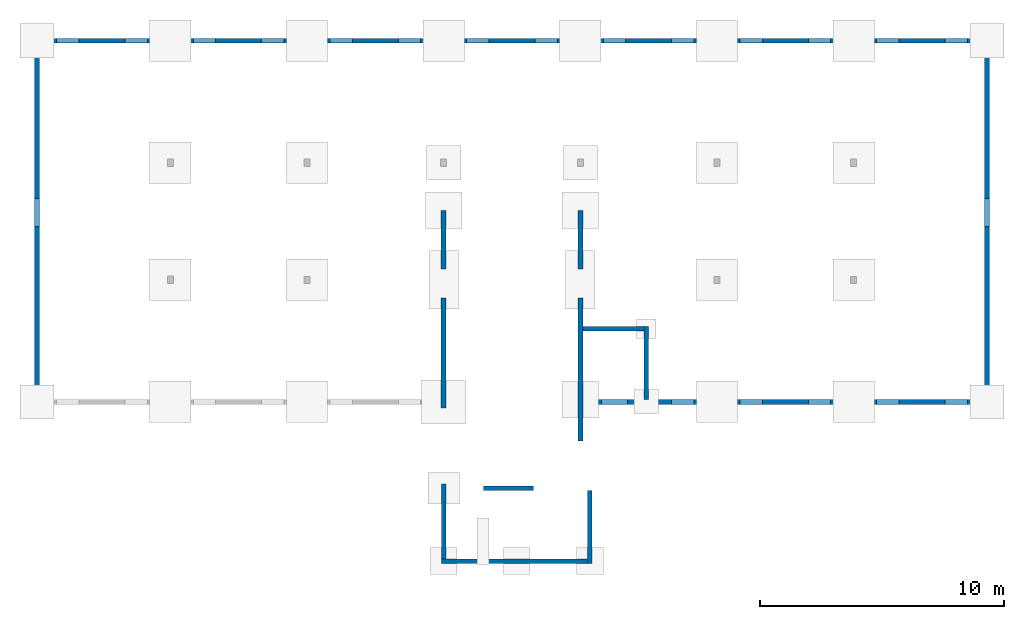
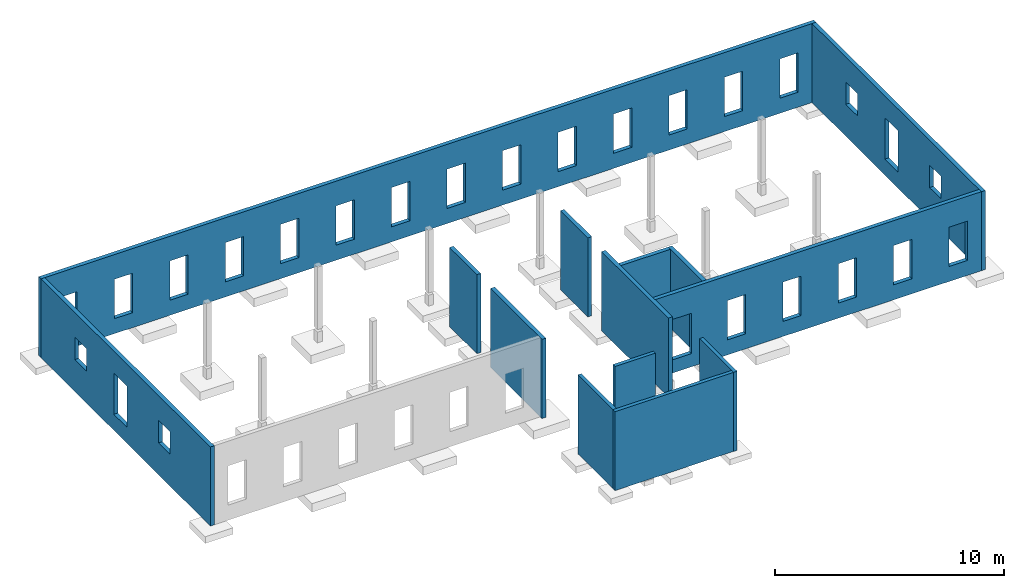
# One storey, part 2 of 2: 14 walls, 26 openings.
"""IFC2X3 building model written with IfcOpenShell, lengths in metres."""

from ifc_helpers import new_model, entity, si_unit, converted_unit, derived_unit, direction, frame, frame_2d, origin, origin_2d_with_axis, place, context, subcontext, project, spatial, rectangle, extrude, material, layer, layer_set, layer_usage, type_object, element, save


model = new_model("IFC2X3")

# Units and contexts
model_context = context("Model", 3, precision=1e-05, world=origin(), true_north=direction((6.12303176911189e-17, 1.0)))
context_of_model = context(None, 3, precision=1e-05, world=origin(), true_north=direction((6.12303176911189e-17, 1.0)))
body_context = subcontext(model_context, "Body", "Model", "MODEL_VIEW")
ifc_project = project(units=[si_unit("LENGTHUNIT", "METRE"), si_unit("AREAUNIT", "SQUARE_METRE"), si_unit("VOLUMEUNIT", "CUBIC_METRE"), converted_unit("PLANEANGLEUNIT", "DEGREE", entity("IfcRatioMeasure", 0.0174532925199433), si_unit("PLANEANGLEUNIT", "RADIAN"), dimensions=[0, 0, 0, 0, 0, 0, 0]), si_unit("MASSUNIT", "GRAM", prefix="KILO"), si_unit("TIMEUNIT", "SECOND"), si_unit("FREQUENCYUNIT", "HERTZ"), si_unit("THERMODYNAMICTEMPERATUREUNIT", "DEGREE_CELSIUS"), derived_unit("THERMALTRANSMITTANCEUNIT", [(si_unit("MASSUNIT", "GRAM", prefix="KILO"), 1), (si_unit("THERMODYNAMICTEMPERATUREUNIT", "KELVIN"), -1), (si_unit("TIMEUNIT", "SECOND"), -3)]), derived_unit("VOLUMETRICFLOWRATEUNIT", [(si_unit("LENGTHUNIT", "METRE"), 3), (si_unit("TIMEUNIT", "SECOND"), -1)]), si_unit("ELECTRICCURRENTUNIT", "AMPERE"), si_unit("ELECTRICVOLTAGEUNIT", "VOLT"), si_unit("POWERUNIT", "WATT"), si_unit("FORCEUNIT", "NEWTON"), si_unit("ILLUMINANCEUNIT", "LUX"), si_unit("LUMINOUSFLUXUNIT", "LUMEN"), si_unit("LUMINOUSINTENSITYUNIT", "CANDELA"), si_unit("PRESSUREUNIT", "PASCAL")], contexts=[model_context, context_of_model])

# Site, building, storey
site_placement = place(None, origin())
site = spatial("IfcSite", under=ifc_project, at=site_placement, Name="Default", CompositionType="ELEMENT")
building_placement = place(site_placement, origin())
building = spatial("IfcBuilding", under=site, at=building_placement, Name="BATIMENT 1", CompositionType="ELEMENT")
storey_placement = place(building_placement, frame((0.0, 0.0, -0.7)))
storey = spatial("IfcBuildingStorey", under=building, at=storey_placement, Name="Fondations", CompositionType="ELEMENT", Elevation=-0.7)

# Wall, openings
ifc_material = material(Name="AEC Béton, C25/30")
ifc_layer_1 = layer(ifc_material, 0.2)
ifc_layer_set_1 = layer_set([ifc_layer_1], Name="Mur de base:BG VOILE BA 0.20 C25/30")
ifc_layer_usage_1 = layer_usage(ifc_layer_set_1, "AXIS2", "NEGATIVE", 0.1)
wall_type_1 = type_object("IfcWallType", Name="Mur de base:BG VOILE BA 0.20 C25/30", PredefinedType="STANDARD", material=ifc_layer_set_1)
wall_1_placement = place(storey_placement, frame((-19.7636530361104, 8.482537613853, 0.0)))
wall_1 = element("IfcWallStandardCase", 1, at=wall_1_placement, inside=storey, type_object=wall_type_1, material=ifc_layer_usage_1, Name="Mur de base:BG VOILE BA 0.20 C25/30", ObjectType="Mur de base:BG VOILE BA 0.20 C25/30", context=body_context, shape_type="SweptSolid", body=[
    extrude(rectangle(XDim=39.12, YDim=0.2, at=frame_2d((19.56, 3.19189119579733e-16), x_axis=(-1.0, 0.0))), origin(), (0.0, 0.0, 1.0), 4.22),
])
opening_1_placement = place(wall_1_placement, origin())
element("IfcOpeningElement", 2, at=opening_1_placement, cuts=wall_1, Name="Mur de base:BG VOILE BA 0.20 C25/30", ObjectType="Opening", context=body_context, shape_type="SweptSolid", body=[
    extrude(rectangle(XDim=2.1, YDim=0.919999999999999, at=origin_2d_with_axis()), frame((1.36, -0.1, 1.85), z_axis=(0.0, 1.0, 0.0), x_axis=(0.0, 0.0, -1.0)), (0.0, 0.0, 1.0), 0.2),
])
opening_2_placement = place(wall_1_placement, origin())
element("IfcOpeningElement", 3, at=opening_2_placement, cuts=wall_1, Name="Mur de base:BG VOILE BA 0.20 C25/30", ObjectType="Opening", context=body_context, shape_type="SweptSolid", body=[
    extrude(rectangle(XDim=2.1, YDim=0.919999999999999, at=origin_2d_with_axis()), frame((4.16, -0.1, 1.85), z_axis=(0.0, 1.0, 0.0), x_axis=(0.0, 0.0, -1.0)), (0.0, 0.0, 1.0), 0.2),
])
opening_3_placement = place(wall_1_placement, origin())
element("IfcOpeningElement", 4, at=opening_3_placement, cuts=wall_1, Name="Mur de base:BG VOILE BA 0.20 C25/30", ObjectType="Opening", context=body_context, shape_type="SweptSolid", body=[
    extrude(rectangle(XDim=2.1, YDim=0.919999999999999, at=origin_2d_with_axis()), frame((6.95999999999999, -0.1, 1.85), z_axis=(0.0, 1.0, 0.0), x_axis=(0.0, 0.0, -1.0)), (0.0, 0.0, 1.0), 0.2),
])
opening_4_placement = place(wall_1_placement, origin())
element("IfcOpeningElement", 5, at=opening_4_placement, cuts=wall_1, Name="Mur de base:BG VOILE BA 0.20 C25/30", ObjectType="Opening", context=body_context, shape_type="SweptSolid", body=[
    extrude(rectangle(XDim=2.1, YDim=0.919999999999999, at=origin_2d_with_axis()), frame((9.75999999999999, -0.1, 1.85), z_axis=(0.0, 1.0, 0.0), x_axis=(0.0, 0.0, -1.0)), (0.0, 0.0, 1.0), 0.2),
])
opening_5_placement = place(wall_1_placement, origin())
element("IfcOpeningElement", 6, at=opening_5_placement, cuts=wall_1, Name="Mur de base:BG VOILE BA 0.20 C25/30", ObjectType="Opening", context=body_context, shape_type="SweptSolid", body=[
    extrude(rectangle(XDim=2.1, YDim=0.919999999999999, at=origin_2d_with_axis()), frame((12.56, -0.0999999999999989, 1.85), z_axis=(0.0, 1.0, 0.0), x_axis=(0.0, 0.0, -1.0)), (0.0, 0.0, 1.0), 0.2),
])
opening_6_placement = place(wall_1_placement, origin())
element("IfcOpeningElement", 7, at=opening_6_placement, cuts=wall_1, Name="Mur de base:BG VOILE BA 0.20 C25/30", ObjectType="Opening", context=body_context, shape_type="SweptSolid", body=[
    extrude(rectangle(XDim=2.1, YDim=0.919999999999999, at=origin_2d_with_axis()), frame((15.36, -0.0999999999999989, 1.85), z_axis=(0.0, 1.0, 0.0), x_axis=(0.0, 0.0, -1.0)), (0.0, 0.0, 1.0), 0.2),
])
opening_7_placement = place(wall_1_placement, origin())
element("IfcOpeningElement", 8, at=opening_7_placement, cuts=wall_1, Name="Mur de base:BG VOILE BA 0.20 C25/30", ObjectType="Opening", context=body_context, shape_type="SweptSolid", body=[
    extrude(rectangle(XDim=2.1, YDim=0.919999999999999, at=origin_2d_with_axis()), frame((18.16, -0.0999999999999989, 1.85), z_axis=(0.0, 1.0, 0.0), x_axis=(0.0, 0.0, -1.0)), (0.0, 0.0, 1.0), 0.2),
])
opening_8_placement = place(wall_1_placement, origin())
element("IfcOpeningElement", 9, at=opening_8_placement, cuts=wall_1, Name="Mur de base:BG VOILE BA 0.20 C25/30", ObjectType="Opening", context=body_context, shape_type="SweptSolid", body=[
    extrude(rectangle(XDim=2.1, YDim=0.919999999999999, at=frame_2d((0.0, -8.32667268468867e-17), x_axis=(1.0, 0.0))), frame((20.96, -0.0999999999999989, 1.85), z_axis=(0.0, 1.0, 0.0), x_axis=(0.0, 0.0, -1.0)), (0.0, 0.0, 1.0), 0.2),
])
opening_9_placement = place(wall_1_placement, origin())
element("IfcOpeningElement", 10, at=opening_9_placement, cuts=wall_1, Name="Mur de base:BG VOILE BA 0.20 C25/30", ObjectType="Opening", context=body_context, shape_type="SweptSolid", body=[
    extrude(rectangle(XDim=2.1, YDim=0.919999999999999, at=origin_2d_with_axis()), frame((23.76, -0.0999999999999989, 1.85), z_axis=(0.0, 1.0, 0.0), x_axis=(0.0, 0.0, -1.0)), (0.0, 0.0, 1.0), 0.2),
])
opening_10_placement = place(wall_1_placement, origin())
element("IfcOpeningElement", 11, at=opening_10_placement, cuts=wall_1, Name="Mur de base:BG VOILE BA 0.20 C25/30", ObjectType="Opening", context=body_context, shape_type="SweptSolid", body=[
    extrude(rectangle(XDim=2.1, YDim=0.919999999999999, at=origin_2d_with_axis()), frame((26.56, -0.0999999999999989, 1.85), z_axis=(0.0, 1.0, 0.0), x_axis=(0.0, 0.0, -1.0)), (0.0, 0.0, 1.0), 0.2),
])
opening_11_placement = place(wall_1_placement, origin())
element("IfcOpeningElement", 12, at=opening_11_placement, cuts=wall_1, Name="Mur de base:BG VOILE BA 0.20 C25/30", ObjectType="Opening", context=body_context, shape_type="SweptSolid", body=[
    extrude(rectangle(XDim=2.1, YDim=0.919999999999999, at=origin_2d_with_axis()), frame((29.36, -0.1, 1.85), z_axis=(0.0, 1.0, 0.0), x_axis=(0.0, 0.0, -1.0)), (0.0, 0.0, 1.0), 0.2),
])
opening_12_placement = place(wall_1_placement, origin())
element("IfcOpeningElement", 13, at=opening_12_placement, cuts=wall_1, Name="Mur de base:BG VOILE BA 0.20 C25/30", ObjectType="Opening", context=body_context, shape_type="SweptSolid", body=[
    extrude(rectangle(XDim=2.1, YDim=0.919999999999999, at=origin_2d_with_axis()), frame((32.16, -0.1, 1.85), z_axis=(0.0, 1.0, 0.0), x_axis=(0.0, 0.0, -1.0)), (0.0, 0.0, 1.0), 0.2),
])
opening_13_placement = place(wall_1_placement, origin())
element("IfcOpeningElement", 14, at=opening_13_placement, cuts=wall_1, Name="Mur de base:BG VOILE BA 0.20 C25/30", ObjectType="Opening", context=body_context, shape_type="SweptSolid", body=[
    extrude(rectangle(XDim=2.1, YDim=0.919999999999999, at=origin_2d_with_axis()), frame((34.96, -0.1, 1.85), z_axis=(0.0, 1.0, 0.0), x_axis=(0.0, 0.0, -1.0)), (0.0, 0.0, 1.0), 0.2),
])
opening_14_placement = place(wall_1_placement, origin())
element("IfcOpeningElement", 15, at=opening_14_placement, cuts=wall_1, Name="Mur de base:BG VOILE BA 0.20 C25/30", ObjectType="Opening", context=body_context, shape_type="SweptSolid", body=[
    extrude(rectangle(XDim=2.1, YDim=0.919999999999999, at=origin_2d_with_axis()), frame((37.76, -0.1, 1.85), z_axis=(0.0, 1.0, 0.0), x_axis=(0.0, 0.0, -1.0)), (0.0, 0.0, 1.0), 0.2),
])

# Walls
ifc_layer_usage_2 = layer_usage(ifc_layer_set_1, "AXIS2", "NEGATIVE", 0.1)
wall_2_placement = place(storey_placement, frame((2.69634696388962, -3.31746238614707, 0.0)))
element("IfcWallStandardCase", 16, at=wall_2_placement, inside=storey, type_object=wall_type_1, material=ifc_layer_usage_2, Name="Mur de base:BG VOILE BA 0.20 C25/30", ObjectType="Mur de base:BG VOILE BA 0.20 C25/30", context=body_context, shape_type="SweptSolid", body=[
    extrude(rectangle(XDim=2.5, YDim=0.2, at=frame_2d((1.25, 0.0), x_axis=(-1.0, 0.0))), origin(), (0.0, 0.0, 1.0), 4.22),
])
ifc_layer_usage_3 = layer_usage(ifc_layer_set_1, "AXIS2", "NEGATIVE", 0.1)
wall_3_placement = place(storey_placement, frame((2.59634696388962, -7.91746238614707, 0.0), z_axis=(0.0, 0.0, 1.0), x_axis=(0.0, 1.0, 0.0)))
element("IfcWallStandardCase", 17, at=wall_3_placement, inside=storey, type_object=wall_type_1, material=ifc_layer_usage_3, Name="Mur de base:BG VOILE BA 0.20 C25/30", ObjectType="Mur de base:BG VOILE BA 0.20 C25/30", context=body_context, shape_type="SweptSolid", body=[
    extrude(rectangle(XDim=5.85, YDim=0.2, at=frame_2d((2.925, 0.0), x_axis=(-1.0, 0.0))), origin(), (0.0, 0.0, 1.0), 4.22),
])

# Wall, openings
ifc_layer_usage_4 = layer_usage(ifc_layer_set_1, "AXIS2", "NEGATIVE", 0.1)
wall_4_placement = place(storey_placement, frame((19.1563469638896, -6.31746238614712, 0.0), z_axis=(0.0, 0.0, 1.0), x_axis=(-1.0, 0.0, 0.0)))
wall_4 = element("IfcWallStandardCase", 18, at=wall_4_placement, inside=storey, type_object=wall_type_1, material=ifc_layer_usage_4, Name="Mur de base:BG VOILE BA 0.20 C25/30", ObjectType="Mur de base:BG VOILE BA 0.20 C25/30", context=body_context, shape_type="SweptSolid", body=[
    extrude(rectangle(XDim=16.46, YDim=0.2, at=frame_2d((8.22999999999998, 2.70616862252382e-16), x_axis=(-1.0, 0.0))), origin(), (0.0, 0.0, 1.0), 4.22),
])
opening_15_placement = place(wall_4_placement, origin())
element("IfcOpeningElement", 19, at=opening_15_placement, cuts=wall_4, Name="Mur de base:BG VOILE BA 0.20 C25/30", ObjectType="Opening", context=body_context, shape_type="SweptSolid", body=[
    extrude(rectangle(XDim=2.1, YDim=0.920000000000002, at=frame_2d((0.0, 5.55111512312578e-16), x_axis=(1.0, 0.0))), frame((12.36, -0.1, 1.85), z_axis=(0.0, 1.0, 0.0), x_axis=(0.0, 0.0, -1.0)), (0.0, 0.0, 1.0), 0.2),
])
opening_16_placement = place(wall_4_placement, origin())
element("IfcOpeningElement", 20, at=opening_16_placement, cuts=wall_4, Name="Mur de base:BG VOILE BA 0.20 C25/30", ObjectType="Opening", context=body_context, shape_type="SweptSolid", body=[
    extrude(rectangle(XDim=2.16, YDim=1.07, at=origin_2d_with_axis()), frame((15.16, -0.100000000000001, 1.78), z_axis=(0.0, 1.0, 0.0), x_axis=(0.0, 0.0, -1.0)), (0.0, 0.0, 1.0), 0.2),
])
opening_17_placement = place(wall_4_placement, origin())
element("IfcOpeningElement", 21, at=opening_17_placement, cuts=wall_4, Name="Mur de base:BG VOILE BA 0.20 C25/30", ObjectType="Opening", context=body_context, shape_type="SweptSolid", body=[
    extrude(rectangle(XDim=2.1, YDim=0.919999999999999, at=origin_2d_with_axis()), frame((9.56000000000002, -0.100000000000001, 1.85), z_axis=(0.0, 1.0, 0.0), x_axis=(0.0, 0.0, -1.0)), (0.0, 0.0, 1.0), 0.2),
])
opening_18_placement = place(wall_4_placement, origin())
element("IfcOpeningElement", 22, at=opening_18_placement, cuts=wall_4, Name="Mur de base:BG VOILE BA 0.20 C25/30", ObjectType="Opening", context=body_context, shape_type="SweptSolid", body=[
    extrude(rectangle(XDim=2.1, YDim=0.919999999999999, at=origin_2d_with_axis()), frame((6.76000000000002, -0.100000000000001, 1.85), z_axis=(0.0, 1.0, 0.0), x_axis=(0.0, 0.0, -1.0)), (0.0, 0.0, 1.0), 0.2),
])
opening_19_placement = place(wall_4_placement, origin())
element("IfcOpeningElement", 23, at=opening_19_placement, cuts=wall_4, Name="Mur de base:BG VOILE BA 0.20 C25/30", ObjectType="Opening", context=body_context, shape_type="SweptSolid", body=[
    extrude(rectangle(XDim=2.1, YDim=0.919999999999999, at=origin_2d_with_axis()), frame((3.96000000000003, -0.1, 1.85), z_axis=(0.0, 1.0, 0.0), x_axis=(0.0, 0.0, -1.0)), (0.0, 0.0, 1.0), 0.2),
])
opening_20_placement = place(wall_4_placement, origin())
element("IfcOpeningElement", 24, at=opening_20_placement, cuts=wall_4, Name="Mur de base:BG VOILE BA 0.20 C25/30", ObjectType="Opening", context=body_context, shape_type="SweptSolid", body=[
    extrude(rectangle(XDim=2.1, YDim=0.919999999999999, at=origin_2d_with_axis()), frame((1.16000000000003, -0.1, 1.85), z_axis=(0.0, 1.0, 0.0), x_axis=(0.0, 0.0, -1.0)), (0.0, 0.0, 1.0), 0.2),
])

# Wall
ifc_layer_usage_5 = layer_usage(ifc_layer_set_1, "AXIS2", "NEGATIVE", 0.1)
wall_5_placement = place(storey_placement, frame((5.29634696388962, -3.21746238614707, 0.0), z_axis=(0.0, 0.0, 1.0), x_axis=(0.0, -1.0, 0.0)))
element("IfcWallStandardCase", 25, at=wall_5_placement, inside=storey, type_object=wall_type_1, material=ifc_layer_usage_5, Name="Mur de base:BG VOILE BA 0.20 C25/30", ObjectType="Mur de base:BG VOILE BA 0.20 C25/30", context=body_context, shape_type="SweptSolid", body=[
    extrude(rectangle(XDim=3.00000000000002, YDim=0.2, at=frame_2d((1.50000000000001, 0.0), x_axis=(-1.0, 0.0))), origin(), (0.0, 0.0, 1.0), 4.22),
])

# Wall, openings
ifc_layer_usage_6 = layer_usage(ifc_layer_set_1, "AXIS2", "NEGATIVE", 0.1)
wall_6_placement = place(storey_placement, frame((-19.6636530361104, 8.38253761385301, 0.0), z_axis=(0.0, 0.0, 1.0), x_axis=(0.0, -1.0, 0.0)))
wall_6 = element("IfcWallStandardCase", 26, at=wall_6_placement, inside=storey, type_object=wall_type_1, material=ifc_layer_usage_6, Name="Mur de base:BG VOILE BA 0.20 C25/30", ObjectType="Mur de base:BG VOILE BA 0.20 C25/30", context=body_context, shape_type="SweptSolid", body=[
    extrude(rectangle(XDim=14.8, YDim=0.199999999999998, at=frame_2d((7.4, 0.0), x_axis=(-1.0, 0.0))), origin(), (0.0, 0.0, 1.0), 4.22),
])
opening_21_placement = place(wall_6_placement, origin())
element("IfcOpeningElement", 27, at=opening_21_placement, cuts=wall_6, Name="Mur de base:BG VOILE BA 0.20 C25/30", ObjectType="Opening", context=body_context, shape_type="SweptSolid", body=[
    extrude(rectangle(XDim=2.2, YDim=1.14, at=origin_2d_with_axis()), frame((6.93600000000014, -0.100000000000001, 1.95), z_axis=(0.0, 1.0, 0.0), x_axis=(0.0, 0.0, -1.0)), (0.0, 0.0, 1.0), 0.199999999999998),
])
opening_22_placement = place(wall_6_placement, origin())
element("IfcOpeningElement", 28, at=opening_22_placement, cuts=wall_6, Name="Mur de base:BG VOILE BA 0.20 C25/30", ObjectType="Opening", context=body_context, shape_type="SweptSolid", body=[
    extrude(rectangle(XDim=1.2, YDim=1.01, at=origin_2d_with_axis()), frame((10.78, -0.100000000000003, 2.3), z_axis=(0.0, 1.0, 0.0), x_axis=(0.0, 0.0, -1.0)), (0.0, 0.0, 1.0), 0.199999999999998),
])
opening_23_placement = place(wall_6_placement, origin())
element("IfcOpeningElement", 29, at=opening_23_placement, cuts=wall_6, Name="Mur de base:BG VOILE BA 0.20 C25/30", ObjectType="Opening", context=body_context, shape_type="SweptSolid", body=[
    extrude(rectangle(XDim=1.2, YDim=1.01, at=origin_2d_with_axis()), frame((3.45600000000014, -0.0999999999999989, 2.3), z_axis=(0.0, 1.0, 0.0), x_axis=(0.0, 0.0, -1.0)), (0.0, 0.0, 1.0), 0.199999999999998),
])

# Wall
ifc_layer_usage_7 = layer_usage(ifc_layer_set_1, "AXIS2", "NEGATIVE", 0.1)
wall_7_placement = place(storey_placement, frame((-3.00365303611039, -6.56746238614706, 0.0), z_axis=(0.0, 0.0, 1.0), x_axis=(0.0, 1.0, 0.0)))
element("IfcWallStandardCase", 30, at=wall_7_placement, inside=storey, type_object=wall_type_1, material=ifc_layer_usage_7, Name="Mur de base:BG VOILE BA 0.20 C25/30", ObjectType="Mur de base:BG VOILE BA 0.20 C25/30", context=body_context, shape_type="SweptSolid", body=[
    extrude(rectangle(XDim=4.5, YDim=0.2, at=frame_2d((2.25, 0.0), x_axis=(-1.0, 0.0))), origin(), (0.0, 0.0, 1.0), 4.22),
])

# Wall, openings
ifc_layer_usage_8 = layer_usage(ifc_layer_set_1, "AXIS2", "NEGATIVE", 0.1)
wall_8_placement = place(storey_placement, frame((19.2563469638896, 8.38253761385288, 0.0), z_axis=(0.0, 0.0, 1.0), x_axis=(0.0, -1.0, 0.0)))
wall_8 = element("IfcWallStandardCase", 31, at=wall_8_placement, inside=storey, type_object=wall_type_1, material=ifc_layer_usage_8, Name="Mur de base:BG VOILE BA 0.20 C25/30", ObjectType="Mur de base:BG VOILE BA 0.20 C25/30", context=body_context, shape_type="SweptSolid", body=[
    extrude(rectangle(XDim=14.8, YDim=0.199999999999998, at=frame_2d((7.4, 0.0), x_axis=(-1.0, 0.0))), origin(), (0.0, 0.0, 1.0), 4.22),
])
opening_24_placement = place(wall_8_placement, origin())
element("IfcOpeningElement", 32, at=opening_24_placement, cuts=wall_8, Name="Mur de base:BG VOILE BA 0.20 C25/30", ObjectType="Opening", context=body_context, shape_type="SweptSolid", body=[
    extrude(rectangle(XDim=2.2, YDim=1.14, at=origin_2d_with_axis()), frame((6.93600000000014, -0.100000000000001, 1.95), z_axis=(0.0, 1.0, 0.0), x_axis=(0.0, 0.0, -1.0)), (0.0, 0.0, 1.0), 0.200000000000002),
])
opening_25_placement = place(wall_8_placement, origin())
element("IfcOpeningElement", 33, at=opening_25_placement, cuts=wall_8, Name="Mur de base:BG VOILE BA 0.20 C25/30", ObjectType="Opening", context=body_context, shape_type="SweptSolid", body=[
    extrude(rectangle(XDim=1.2, YDim=1.01, at=origin_2d_with_axis()), frame((10.78, -0.0999999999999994, 2.3), z_axis=(0.0, 1.0, 0.0), x_axis=(0.0, 0.0, -1.0)), (0.0, 0.0, 1.0), 0.199999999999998),
])
opening_26_placement = place(wall_8_placement, origin())
element("IfcOpeningElement", 34, at=opening_26_placement, cuts=wall_8, Name="Mur de base:BG VOILE BA 0.20 C25/30", ObjectType="Opening", context=body_context, shape_type="SweptSolid", body=[
    extrude(rectangle(XDim=1.2, YDim=1.01, at=origin_2d_with_axis()), frame((3.45600000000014, -0.0999999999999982, 2.3), z_axis=(0.0, 1.0, 0.0), x_axis=(0.0, 0.0, -1.0)), (0.0, 0.0, 1.0), 0.199999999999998),
])

# Walls
ifc_layer_usage_9 = layer_usage(ifc_layer_set_1, "AXIS2", "NEGATIVE", 0.1)
wall_9_placement = place(storey_placement, frame((-3.00365303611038, -0.867462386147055, 0.0), z_axis=(0.0, 0.0, 1.0), x_axis=(0.0, 1.0, 0.0)))
element("IfcWallStandardCase", 35, at=wall_9_placement, inside=storey, type_object=wall_type_1, material=ifc_layer_usage_9, Name="Mur de base:BG VOILE BA 0.20 C25/30", ObjectType="Mur de base:BG VOILE BA 0.20 C25/30", context=body_context, shape_type="SweptSolid", body=[
    extrude(rectangle(XDim=2.4, YDim=0.2, at=frame_2d((1.2, 0.0), x_axis=(-1.0, 0.0))), origin(), (0.0, 0.0, 1.0), 4.22),
])
ifc_layer_usage_10 = layer_usage(ifc_layer_set_1, "AXIS2", "NEGATIVE", 0.1)
wall_10_placement = place(storey_placement, frame((2.59634696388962, -0.867462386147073, 0.0), z_axis=(0.0, 0.0, 1.0), x_axis=(0.0, 1.0, 0.0)))
element("IfcWallStandardCase", 36, at=wall_10_placement, inside=storey, type_object=wall_type_1, material=ifc_layer_usage_10, Name="Mur de base:BG VOILE BA 0.20 C25/30", ObjectType="Mur de base:BG VOILE BA 0.20 C25/30", context=body_context, shape_type="SweptSolid", body=[
    extrude(rectangle(XDim=2.40000000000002, YDim=0.2, at=frame_2d((1.20000000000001, 0.0), x_axis=(-1.0, 0.0))), origin(), (0.0, 0.0, 1.0), 4.22),
])
ifc_layer_2 = layer(ifc_material, 0.18)
ifc_layer_set_2 = layer_set([ifc_layer_2], Name="Mur de base:BG VOILE BA 0.18 C25/30")
ifc_layer_usage_11 = layer_usage(ifc_layer_set_2, "AXIS2", "NEGATIVE", 0.09)
wall_type_2 = type_object("IfcWallType", Name="Mur de base:BG VOILE BA 0.18 C25/30", PredefinedType="STANDARD", material=ifc_layer_set_2)
wall_11_placement = place(storey_placement, frame((2.89634696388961, -12.8374623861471, 0.0), z_axis=(0.0, 0.0, 1.0), x_axis=(-1.0, 0.0, 0.0)))
element("IfcWallStandardCase", 37, at=wall_11_placement, inside=storey, type_object=wall_type_2, material=ifc_layer_usage_11, Name="Mur de base:BG VOILE BA 0.18 C25/30", ObjectType="Mur de base:BG VOILE BA 0.18 C25/30", context=body_context, shape_type="SweptSolid", body=[
    extrude(rectangle(XDim=5.99, YDim=0.179999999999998, at=frame_2d((2.995, 0.0), x_axis=(-1.0, 0.0))), origin(), (0.0, 0.0, 1.0), 4.22),
])
ifc_layer_usage_12 = layer_usage(ifc_layer_set_2, "AXIS2", "NEGATIVE", 0.09)
wall_12_placement = place(storey_placement, frame((-3.00365303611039, -12.7474623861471, 0.0), z_axis=(0.0, 0.0, 1.0), x_axis=(0.0, 1.0, 0.0)))
element("IfcWallStandardCase", 38, at=wall_12_placement, inside=storey, type_object=wall_type_2, material=ifc_layer_usage_12, Name="Mur de base:BG VOILE BA 0.18 C25/30", ObjectType="Mur de base:BG VOILE BA 0.18 C25/30", context=body_context, shape_type="SweptSolid", body=[
    extrude(rectangle(XDim=3.07, YDim=0.18, at=frame_2d((1.535, -5.55111512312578e-17), x_axis=(-1.0, 0.0))), origin(), (0.0, 0.0, 1.0), 4.22),
])
ifc_layer_usage_13 = layer_usage(ifc_layer_set_2, "AXIS2", "NEGATIVE", 0.09)
wall_13_placement = place(storey_placement, frame((2.98634696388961, -9.94746238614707, 0.0), z_axis=(0.0, 0.0, 1.0), x_axis=(0.0, -1.0, 0.0)))
element("IfcWallStandardCase", 39, at=wall_13_placement, inside=storey, type_object=wall_type_2, material=ifc_layer_usage_13, Name="Mur de base:BG VOILE BA 0.18 C25/30", ObjectType="Mur de base:BG VOILE BA 0.18 C25/30", context=body_context, shape_type="SweptSolid", body=[
    extrude(rectangle(XDim=2.98, YDim=0.18, at=frame_2d((1.49, 1.66533453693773e-16), x_axis=(-1.0, 0.0))), origin(), (0.0, 0.0, 1.0), 4.22),
])
ifc_layer_usage_14 = layer_usage(ifc_layer_set_2, "AXIS2", "NEGATIVE", 0.09)
wall_14_placement = place(storey_placement, frame((0.671346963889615, -9.85746238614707, 0.0), z_axis=(0.0, 0.0, 1.0), x_axis=(-1.0, 0.0, 0.0)))
element("IfcWallStandardCase", 40, at=wall_14_placement, inside=storey, type_object=wall_type_2, material=ifc_layer_usage_14, Name="Mur de base:BG VOILE BA 0.18 C25/30", ObjectType="Mur de base:BG VOILE BA 0.18 C25/30", context=body_context, shape_type="SweptSolid", body=[
    extrude(rectangle(XDim=2.03500000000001, YDim=0.179999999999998, at=frame_2d((1.0175, -1.02695629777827e-15), x_axis=(-1.0, 0.0))), origin(), (0.0, 0.0, 1.0), 4.22),
])

save(model, "model.ifc")
